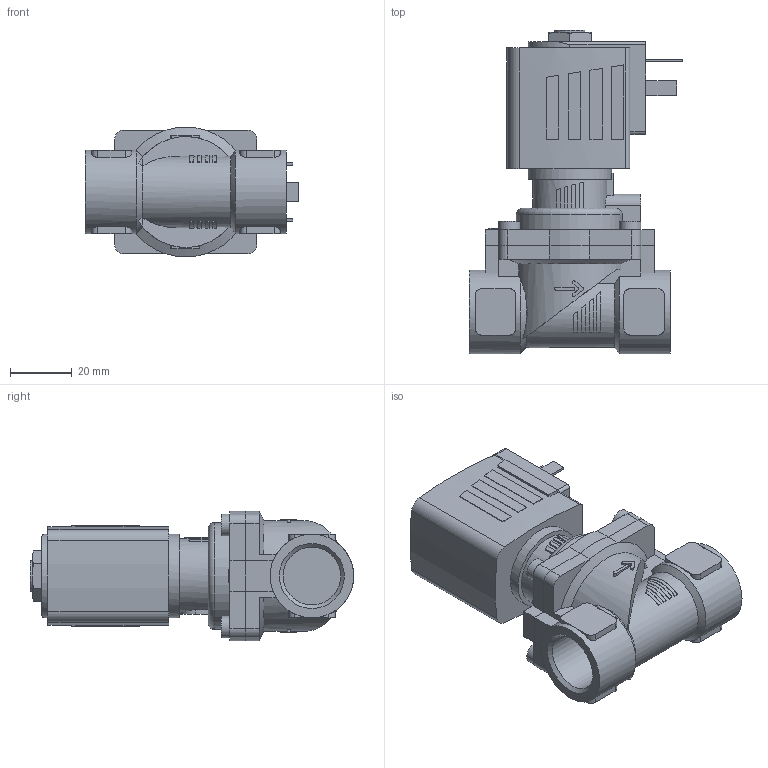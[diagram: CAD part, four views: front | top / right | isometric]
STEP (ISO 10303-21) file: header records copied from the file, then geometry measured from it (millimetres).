
FILE_DESCRIPTION(/* description */ ('STEP AP214'),/* implementation_level */ '2;1');
FILE_NAME(/* name */ '6281-293378-2_2-Way_Solenoid_Valve__Servo-assisted__General_Purpose',/* time_stamp */ '2024-05-14T16:06:44+02:00',/* author */ ('License CC BY-ND 4.0'),/* organization */ ('CADENAS'),/* preprocessor_version */ 'ST-DEVELOPER v19.3',/* originating_system */ 'PARTsolutions',/* authorisation */ ' ');
FILE_SCHEMA (('AUTOMOTIVE_DESIGN {1 0 10303 214 3 1 1}'));
Length unit declared in the file: millimetre
Products named in the file (4): 6281-293378-2/2-Way Solenoid Valve, Servo-assisted, General Purpose; 5281ev130MS2/2-Wege-Magnetventil mit Servomembran-Deckel 42MA02 ; 6213-13G1/2MS-Gehaeuse-lang; AC10ex-5NA38-Plan-Coil
Assembly tree (3 placements, depth 2):
  6281-293378-2/2-Way Solenoid Valve, Servo-assisted, General Purpose
    5281ev130MS2/2-Wege-Magnetventil mit Servomembran-Deckel 42MA02 
    6213-13G1/2MS-Gehaeuse-lang
    AC10ex-5NA38-Plan-Coil
Bounding box: 69 x 104.5 x 42 mm (x, y, z)
Volume: 118919 mm3; surface area: 29225.8 mm2
Topology: 3 solids, 3 shells, 341 faces, 871 edges, 570 vertices
Faces by surface type: plane 236, cylinder 91, cone 13, torus 1
Full cylindrical faces by diameter (mm): 2.013 x1, 7 x4, 9.74 x1, 18.631 x2, 27 x3
Entity records: 11620 total; most frequent: CARTESIAN_POINT 2022, DIRECTION 1730, ORIENTED_EDGE 1700, EDGE_CURVE 850, AXIS2_PLACEMENT_3D 604, VERTEX_POINT 564, LINE 522, VECTOR 522
